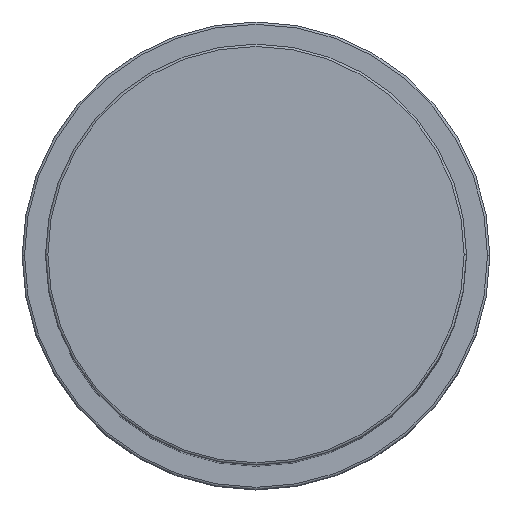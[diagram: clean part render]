
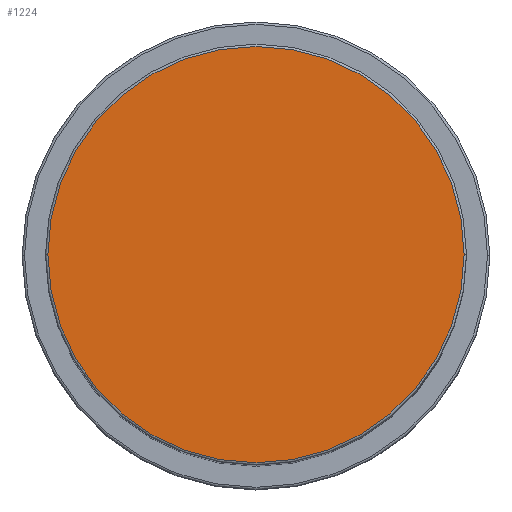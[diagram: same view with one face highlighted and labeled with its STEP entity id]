
A CAD part, top view. The second image highlights one B-rep face of the part: STEP entity #1224.
In plain terms, the highlighted planar face has unit normal (0, 0, 1).
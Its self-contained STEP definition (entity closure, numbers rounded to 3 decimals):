
#3 = DIRECTION ( 'NONE',  ( 1., 0., 0. ) ) ;
#56 = DIRECTION ( 'NONE',  ( 1., 0., 0. ) ) ;
#66 = DIRECTION ( 'NONE',  ( 0., 0., 1. ) ) ;
#200 = VERTEX_POINT ( 'NONE', #390 ) ;
#212 = PLANE ( 'NONE',  #982 ) ;
#390 = CARTESIAN_POINT ( 'NONE',  ( -44.5, 0., 169. ) ) ;
#569 = EDGE_CURVE ( 'NONE', #596, #200, #1302, .T. ) ;
#596 = VERTEX_POINT ( 'NONE', #1740 ) ;
#781 = AXIS2_PLACEMENT_3D ( 'NONE', #1576, #1586, #1752 ) ;
#956 = ORIENTED_EDGE ( 'NONE', *, *, #1178, .T. ) ;
#965 = DIRECTION ( 'NONE',  ( 0., 0., 1. ) ) ;
#982 = AXIS2_PLACEMENT_3D ( 'NONE', #1454, #66, #56 ) ;
#1178 = EDGE_CURVE ( 'NONE', #200, #596, #1764, .T. ) ;
#1224 = ADVANCED_FACE ( 'NONE', ( #2044 ), #212, .T. ) ;
#1302 = CIRCLE ( 'NONE', #1353, 44.5 ) ;
#1353 = AXIS2_PLACEMENT_3D ( 'NONE', #1925, #965, #3 ) ;
#1454 = CARTESIAN_POINT ( 'NONE',  ( 0., 0., 169. ) ) ;
#1576 = CARTESIAN_POINT ( 'NONE',  ( 0., 0., 169. ) ) ;
#1586 = DIRECTION ( 'NONE',  ( 0., 0., 1. ) ) ;
#1740 = CARTESIAN_POINT ( 'NONE',  ( 44.5, 0., 169. ) ) ;
#1752 = DIRECTION ( 'NONE',  ( 1., 0., 0. ) ) ;
#1764 = CIRCLE ( 'NONE', #781, 44.5 ) ;
#1925 = CARTESIAN_POINT ( 'NONE',  ( 0., 0., 169. ) ) ;
#2012 = ORIENTED_EDGE ( 'NONE', *, *, #569, .T. ) ;
#2018 = EDGE_LOOP ( 'NONE', ( #2012, #956 ) ) ;
#2044 = FACE_OUTER_BOUND ( 'NONE', #2018, .T. ) ;
